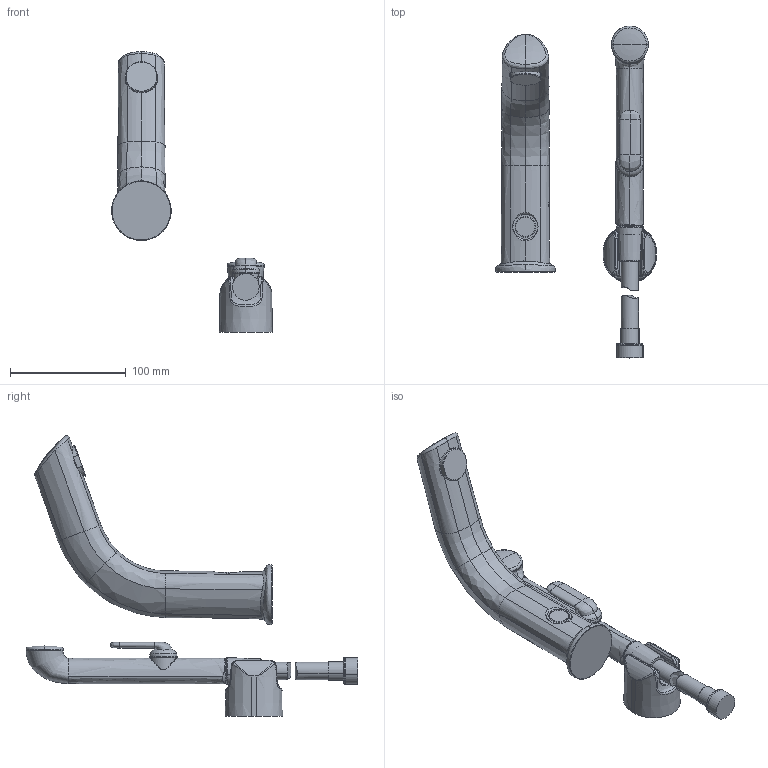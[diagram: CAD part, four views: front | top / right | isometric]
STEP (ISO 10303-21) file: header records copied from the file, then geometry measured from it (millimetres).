
FILE_DESCRIPTION (( 'STEP AP203' ), '1' );
FILE_NAME ('6105.STEP', '2018-10-18T09:30:49', ( '' ), ( '' ), 'SwSTEP 2.0', 'SolidWorks 2016', '' );
FILE_SCHEMA (( 'CONFIG_CONTROL_DESIGN' ));
Length unit declared in the file: millimetre
Products named in the file (1): 6105
Bounding box: 138.81 x 286.42 x 242.24 mm (x, y, z)
Volume: 531802.4 mm3; surface area: 79316.1 mm2
Topology: 9 solids, 9 shells, 200 faces, 445 edges, 264 vertices
Faces by surface type: bspline 88, cylinder 38, plane 31, torus 20, cone 19, sphere 4
Entity records: 20943 total; most frequent: CARTESIAN_POINT 17241, ORIENTED_EDGE 878, DIRECTION 574, EDGE_CURVE 439, VERTEX_POINT 264, AXIS2_PLACEMENT_3D 251, EDGE_LOOP 207, ADVANCED_FACE 200
